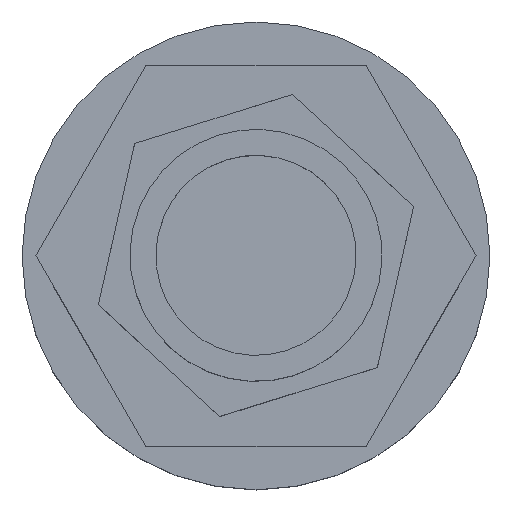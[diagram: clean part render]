
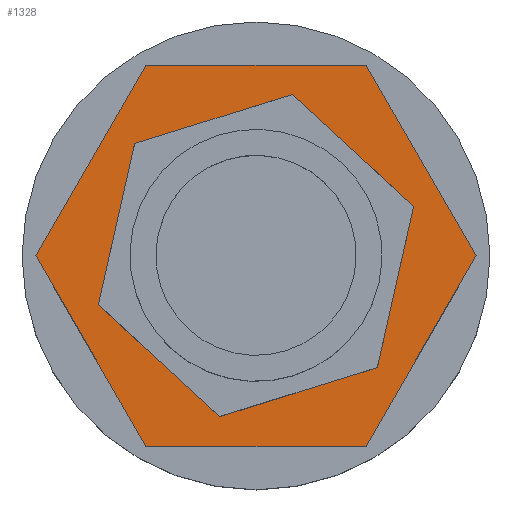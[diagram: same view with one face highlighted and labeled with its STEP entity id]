
A CAD part, top view. The second image highlights one B-rep face of the part: STEP entity #1328.
In plain terms, the highlighted planar face has unit normal (0, 0, 1).
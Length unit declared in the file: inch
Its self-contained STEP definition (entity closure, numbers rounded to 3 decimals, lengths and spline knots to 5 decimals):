
#8 = FACE_OUTER_BOUND ( 'NONE', #872, .T. ) ;
#9 = FACE_BOUND ( 'NONE', #1003, .T. ) ;
#41 = AXIS2_PLACEMENT_3D ( 'NONE', #220, #100, #108 ) ;
#43 = AXIS2_PLACEMENT_3D ( 'NONE', #252, #272, #96 ) ;
#51 = DIRECTION ( 'NONE',  ( -0.5, -0.866, 0. ) ) ;
#52 = CARTESIAN_POINT ( 'NONE',  ( -2.05534, -1.38235, 0.673 ) ) ;
#53 = CARTESIAN_POINT ( 'NONE',  ( -1.58794, -0.45128, 0.673 ) ) ;
#55 = CARTESIAN_POINT ( 'NONE',  ( -1.84217, -1.57907, 0.673 ) ) ;
#61 = CARTESIAN_POINT ( 'NONE',  ( -1.80583, -2.12486, 0.673 ) ) ;
#62 = DIRECTION ( 'NONE',  ( -1., 0., 0. ) ) ;
#63 = CARTESIAN_POINT ( 'NONE',  ( -1.14196, -1.88344, 0.673 ) ) ;
#66 = DIRECTION ( 'NONE',  ( 0.955, 0.297, 0. ) ) ;
#71 = CARTESIAN_POINT ( 'NONE',  ( -0.65113, -0.12486, 0.673 ) ) ;
#74 = DIRECTION ( 'NONE',  ( 0.22, 0.976, 0. ) ) ;
#75 = DIRECTION ( 'NONE',  ( -0.5, 0.866, 0. ) ) ;
#76 = CARTESIAN_POINT ( 'NONE',  ( -1.31499, -0.36628, 0.673 ) ) ;
#90 = CARTESIAN_POINT ( 'NONE',  ( -1.22848, -1.12486, 0.673 ) ) ;
#91 = CARTESIAN_POINT ( 'NONE',  ( -1.80583, -0.12486, 0.673 ) ) ;
#96 = DIRECTION ( 'NONE',  ( -1., 0., 0. ) ) ;
#98 = CARTESIAN_POINT ( 'NONE',  ( -1.22848, -1.12486, 0.673 ) ) ;
#100 = DIRECTION ( 'NONE',  ( 0., 0., 1. ) ) ;
#108 = DIRECTION ( 'NONE',  ( -1., 0., 0. ) ) ;
#111 = DIRECTION ( 'NONE',  ( 0., 0., 1. ) ) ;
#118 = DIRECTION ( 'NONE',  ( 0.735, -0.678, 0. ) ) ;
#121 = DIRECTION ( 'NONE',  ( 0.5, 0.866, 0. ) ) ;
#127 = DIRECTION ( 'NONE',  ( -0.735, 0.678, 0. ) ) ;
#137 = CARTESIAN_POINT ( 'NONE',  ( -1.03803, -0.28004, 0.673 ) ) ;
#141 = CARTESIAN_POINT ( 'NONE',  ( -0.86901, -1.79845, 0.673 ) ) ;
#144 = CARTESIAN_POINT ( 'NONE',  ( -0.52827, -1.42923, 0.673 ) ) ;
#145 = DIRECTION ( 'NONE',  ( -0.955, -0.297, 0. ) ) ;
#151 = CARTESIAN_POINT ( 'NONE',  ( -0.59206, -1.7122, 0.673 ) ) ;
#155 = CARTESIAN_POINT ( 'NONE',  ( -0.40161, -0.86738, 0.673 ) ) ;
#162 = CARTESIAN_POINT ( 'NONE',  ( -0.65113, -2.12486, 0.673 ) ) ;
#175 = DIRECTION ( 'NONE',  ( -1., 0., 0. ) ) ;
#183 = CARTESIAN_POINT ( 'NONE',  ( -0.07378, -1.12486, 0.673 ) ) ;
#185 = CARTESIAN_POINT ( 'NONE',  ( -0.4654, -1.15035, 0.673 ) ) ;
#188 = CARTESIAN_POINT ( 'NONE',  ( -1.63208, -1.77296, 0.673 ) ) ;
#195 = CARTESIAN_POINT ( 'NONE',  ( -1.80583, -0.12486, 0.673 ) ) ;
#199 = CARTESIAN_POINT ( 'NONE',  ( -1.8649, -0.53752, 0.673 ) ) ;
#215 = CARTESIAN_POINT ( 'NONE',  ( -0.65113, -2.12486, 0.673 ) ) ;
#220 = CARTESIAN_POINT ( 'NONE',  ( -1.22848, -1.12486, 0.673 ) ) ;
#223 = DIRECTION ( 'NONE',  ( -1., 0., 0. ) ) ;
#227 = DIRECTION ( 'NONE',  ( 0.5, -0.866, 0. ) ) ;
#230 = DIRECTION ( 'NONE',  ( 1., 0., 0. ) ) ;
#234 = CARTESIAN_POINT ( 'NONE',  ( -1.99155, -1.09938, 0.673 ) ) ;
#243 = CARTESIAN_POINT ( 'NONE',  ( -0.65113, -0.12486, 0.673 ) ) ;
#245 = CARTESIAN_POINT ( 'NONE',  ( -1.92868, -0.82049, 0.673 ) ) ;
#252 = CARTESIAN_POINT ( 'NONE',  ( -1.22848, -1.12486, 0.673 ) ) ;
#256 = DIRECTION ( 'NONE',  ( -0.22, -0.976, 0. ) ) ;
#258 = CARTESIAN_POINT ( 'NONE',  ( -1.41892, -1.96969, 0.673 ) ) ;
#260 = CARTESIAN_POINT ( 'NONE',  ( -0.07378, -1.12486, 0.673 ) ) ;
#267 = CARTESIAN_POINT ( 'NONE',  ( -1.80583, -2.12486, 0.673 ) ) ;
#271 = DIRECTION ( 'NONE',  ( -1., 0., 0. ) ) ;
#272 = DIRECTION ( 'NONE',  ( 0., 0., 1. ) ) ;
#273 = CARTESIAN_POINT ( 'NONE',  ( -1.22848, -1.12486, 0.673 ) ) ;
#274 = CARTESIAN_POINT ( 'NONE',  ( -2.38318, -1.12486, 0.673 ) ) ;
#276 = CARTESIAN_POINT ( 'NONE',  ( -2.38318, -1.12486, 0.673 ) ) ;
#277 = CARTESIAN_POINT ( 'NONE',  ( -0.61478, -0.67065, 0.673 ) ) ;
#281 = CARTESIAN_POINT ( 'NONE',  ( -1.22848, -1.12486, 0.673 ) ) ;
#306 = DIRECTION ( 'NONE',  ( 0., 0., 1. ) ) ;
#313 = CARTESIAN_POINT ( 'NONE',  ( -0.82487, -0.47676, 0.673 ) ) ;
#319 = DIRECTION ( 'NONE',  ( 0., 0., 1. ) ) ;
#321 = DIRECTION ( 'NONE',  ( -1., 0., 0. ) ) ;
#325 = DIRECTION ( 'NONE',  ( 0., 0., 1. ) ) ;
#348 = CIRCLE ( 'NONE', #43, 0.7635 ) ;
#349 = VECTOR ( 'NONE', #227, 39.37008 ) ;
#358 = VECTOR ( 'NONE', #121, 39.37008 ) ;
#359 = LINE ( 'NONE', #183, #412 ) ;
#373 = VECTOR ( 'NONE', #51, 39.37008 ) ;
#388 = CIRCLE ( 'NONE', #1218, 0.7635 ) ;
#395 = LINE ( 'NONE', #274, #349 ) ;
#405 = LINE ( 'NONE', #52, #458 ) ;
#412 = VECTOR ( 'NONE', #75, 39.37008 ) ;
#417 = ORIENTED_EDGE ( 'NONE', *, *, #1226, .F. ) ;
#420 = ORIENTED_EDGE ( 'NONE', *, *, #1177, .T. ) ;
#422 = VECTOR ( 'NONE', #145, 39.37008 ) ;
#423 = ORIENTED_EDGE ( 'NONE', *, *, #1188, .F. ) ;
#425 = VECTOR ( 'NONE', #127, 39.37008 ) ;
#431 = ORIENTED_EDGE ( 'NONE', *, *, #565, .T. ) ;
#435 = CIRCLE ( 'NONE', #41, 0.7635 ) ;
#438 = VECTOR ( 'NONE', #66, 39.37008 ) ;
#445 = LINE ( 'NONE', #137, #422 ) ;
#449 = VECTOR ( 'NONE', #230, 39.37008 ) ;
#451 = LINE ( 'NONE', #151, #463 ) ;
#458 = VECTOR ( 'NONE', #118, 39.37008 ) ;
#463 = VECTOR ( 'NONE', #74, 39.37008 ) ;
#472 = LINE ( 'NONE', #258, #438 ) ;
#473 = ORIENTED_EDGE ( 'NONE', *, *, #568, .T. ) ;
#478 = VECTOR ( 'NONE', #175, 39.37008 ) ;
#479 = ORIENTED_EDGE ( 'NONE', *, *, #573, .F. ) ;
#481 = LINE ( 'NONE', #195, #373 ) ;
#483 = LINE ( 'NONE', #199, #500 ) ;
#493 = ORIENTED_EDGE ( 'NONE', *, *, #1186, .F. ) ;
#497 = ORIENTED_EDGE ( 'NONE', *, *, #1196, .F. ) ;
#500 = VECTOR ( 'NONE', #256, 39.37008 ) ;
#504 = ORIENTED_EDGE ( 'NONE', *, *, #567, .T. ) ;
#507 = LINE ( 'NONE', #155, #425 ) ;
#508 = ORIENTED_EDGE ( 'NONE', *, *, #1191, .F. ) ;
#509 = ORIENTED_EDGE ( 'NONE', *, *, #1183, .F. ) ;
#511 = LINE ( 'NONE', #267, #449 ) ;
#512 = LINE ( 'NONE', #162, #358 ) ;
#525 = ORIENTED_EDGE ( 'NONE', *, *, #1189, .F. ) ;
#528 = ORIENTED_EDGE ( 'NONE', *, *, #562, .T. ) ;
#531 = ORIENTED_EDGE ( 'NONE', *, *, #1230, .F. ) ;
#533 = ORIENTED_EDGE ( 'NONE', *, *, #1212, .F. ) ;
#535 = ORIENTED_EDGE ( 'NONE', *, *, #1178, .F. ) ;
#539 = ORIENTED_EDGE ( 'NONE', *, *, #1180, .T. ) ;
#548 = LINE ( 'NONE', #71, #478 ) ;
#552 = ORIENTED_EDGE ( 'NONE', *, *, #1204, .F. ) ;
#562 = EDGE_CURVE ( 'NONE', #1008, #871, #512, .T. ) ;
#565 = EDGE_CURVE ( 'NONE', #871, #998, #359, .T. ) ;
#567 = EDGE_CURVE ( 'NONE', #889, #880, #481, .T. ) ;
#568 = EDGE_CURVE ( 'NONE', #998, #889, #548, .T. ) ;
#573 = EDGE_CURVE ( 'NONE', #944, #982, #451, .T. ) ;
#577 = CIRCLE ( 'NONE', #1250, 0.7635 ) ;
#610 = CIRCLE ( 'NONE', #1247, 0.7635 ) ;
#647 = CIRCLE ( 'NONE', #1220, 0.7635 ) ;
#848 = VERTEX_POINT ( 'NONE', #313 ) ;
#864 = VERTEX_POINT ( 'NONE', #63 ) ;
#871 = VERTEX_POINT ( 'NONE', #260 ) ;
#872 = EDGE_LOOP ( 'NONE', ( #528, #431, #473, #504, #539, #420 ) ) ;
#880 = VERTEX_POINT ( 'NONE', #276 ) ;
#886 = VERTEX_POINT ( 'NONE', #277 ) ;
#889 = VERTEX_POINT ( 'NONE', #91 ) ;
#890 = VERTEX_POINT ( 'NONE', #188 ) ;
#901 = VERTEX_POINT ( 'NONE', #245 ) ;
#944 = VERTEX_POINT ( 'NONE', #144 ) ;
#951 = VERTEX_POINT ( 'NONE', #55 ) ;
#963 = VERTEX_POINT ( 'NONE', #53 ) ;
#968 = VERTEX_POINT ( 'NONE', #141 ) ;
#981 = VERTEX_POINT ( 'NONE', #61 ) ;
#982 = VERTEX_POINT ( 'NONE', #185 ) ;
#998 = VERTEX_POINT ( 'NONE', #243 ) ;
#1002 = VERTEX_POINT ( 'NONE', #76 ) ;
#1003 = EDGE_LOOP ( 'NONE', ( #497, #531, #552, #533, #509, #417, #493, #535, #525, #423, #479, #508 ) ) ;
#1004 = VERTEX_POINT ( 'NONE', #234 ) ;
#1008 = VERTEX_POINT ( 'NONE', #215 ) ;
#1089 = PLANE ( 'NONE',  #1162 ) ;
#1098 = CARTESIAN_POINT ( 'NONE',  ( -0.65113, -2.12486, 0.673 ) ) ;
#1099 = DIRECTION ( 'NONE',  ( 0., 0., -1. ) ) ;
#1100 = DIRECTION ( 'NONE',  ( -1., 0., 0. ) ) ;
#1162 = AXIS2_PLACEMENT_3D ( 'NONE', #1098, #1099, #1100 ) ;
#1177 = EDGE_CURVE ( 'NONE', #981, #1008, #511, .T. ) ;
#1178 = EDGE_CURVE ( 'NONE', #848, #1002, #388, .T. ) ;
#1180 = EDGE_CURVE ( 'NONE', #880, #981, #395, .T. ) ;
#1183 = EDGE_CURVE ( 'NONE', #901, #1004, #483, .T. ) ;
#1186 = EDGE_CURVE ( 'NONE', #1002, #963, #445, .T. ) ;
#1188 = EDGE_CURVE ( 'NONE', #982, #886, #435, .T. ) ;
#1189 = EDGE_CURVE ( 'NONE', #886, #848, #507, .T. ) ;
#1191 = EDGE_CURVE ( 'NONE', #968, #944, #348, .T. ) ;
#1196 = EDGE_CURVE ( 'NONE', #864, #968, #472, .T. ) ;
#1204 = EDGE_CURVE ( 'NONE', #951, #890, #405, .T. ) ;
#1212 = EDGE_CURVE ( 'NONE', #1004, #951, #647, .T. ) ;
#1218 = AXIS2_PLACEMENT_3D ( 'NONE', #273, #111, #271 ) ;
#1220 = AXIS2_PLACEMENT_3D ( 'NONE', #90, #319, #62 ) ;
#1226 = EDGE_CURVE ( 'NONE', #963, #901, #610, .T. ) ;
#1230 = EDGE_CURVE ( 'NONE', #890, #864, #577, .T. ) ;
#1247 = AXIS2_PLACEMENT_3D ( 'NONE', #98, #306, #223 ) ;
#1250 = AXIS2_PLACEMENT_3D ( 'NONE', #281, #325, #321 ) ;
#1328 = ADVANCED_FACE ( 'NONE', ( #9, #8 ), #1089, .F. ) ;
